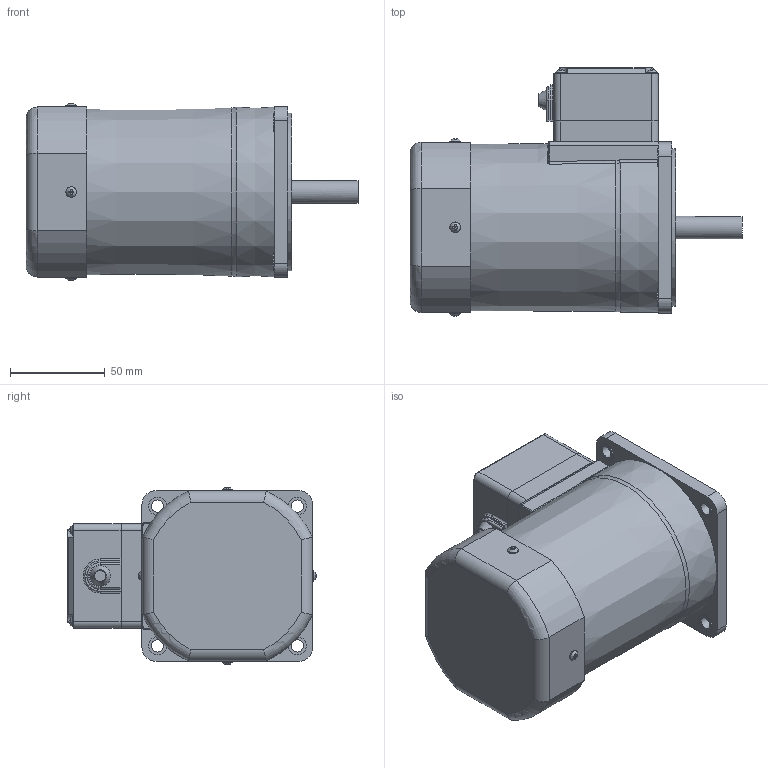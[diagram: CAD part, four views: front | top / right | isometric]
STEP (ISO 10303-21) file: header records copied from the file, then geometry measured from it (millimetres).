
FILE_DESCRIPTION((''),'2;1');
FILE_NAME('D:\김성묵\업무폴더\개발 파일\프로젝트 개발 AB등급\AC표준형 개발자료\90각 이하 표준형 개발\도면작성 자료\3D 도면\홈페이지용 3D 파일\90W MOTOR\T1 BOX TYPE\S9(I,R)90K-T1.stp','2015-03-26T19:07:46',('smkim'),(''),'Autodesk Inventor 2012','Autodesk Inventor 2012','');
FILE_SCHEMA(('AUTOMOTIVE_DESIGN { 1 0 10303 214 1 1 1 1 }'));
Length unit declared in the file: millimetre
Products named in the file (9): S9(I,R)90K-T1; S9I90GㅁTCE; FAN COVER; 552300620; 80 각 T1 BOX_CORD BUSH; 25W T1 BOX CORD BUSH G; 80각 T1 BOX; S9I60K
Assembly tree (15 placements, depth 3):
  S9(I,R)90K-T1
    S9I90GㅁTCE
    FAN COVER
      FAN COVER
      552300620  x4
    80 각 T1 BOX_CORD BUSH
      25W T1 BOX CORD BUSH G
      80각 T1 BOX
    552300620  x4
    S9I60K
Bounding box: 174.8 x 130.75 x 93.49 mm (x, y, z)
Volume: 1097452 mm3; surface area: 113252.8 mm2
Topology: 14 solids, 14 shells, 381 faces, 912 edges, 584 vertices
Faces by surface type: plane 219, cylinder 91, bspline 28, torus 27, cone 16
Full cylindrical faces by diameter (mm): 3 x12, 3.5 x4, 5.6 x8, 6.5 x4, 8 x1, 9.5 x4, 12 x1, 40 x1, 83 x1, 86 x1
Entity records: 7618 total; most frequent: CARTESIAN_POINT 2048, DIRECTION 1110, ORIENTED_EDGE 1040, EDGE_CURVE 520, AXIS2_PLACEMENT_3D 423, VERTEX_POINT 356, EDGE_LOOP 300, VECTOR 264
